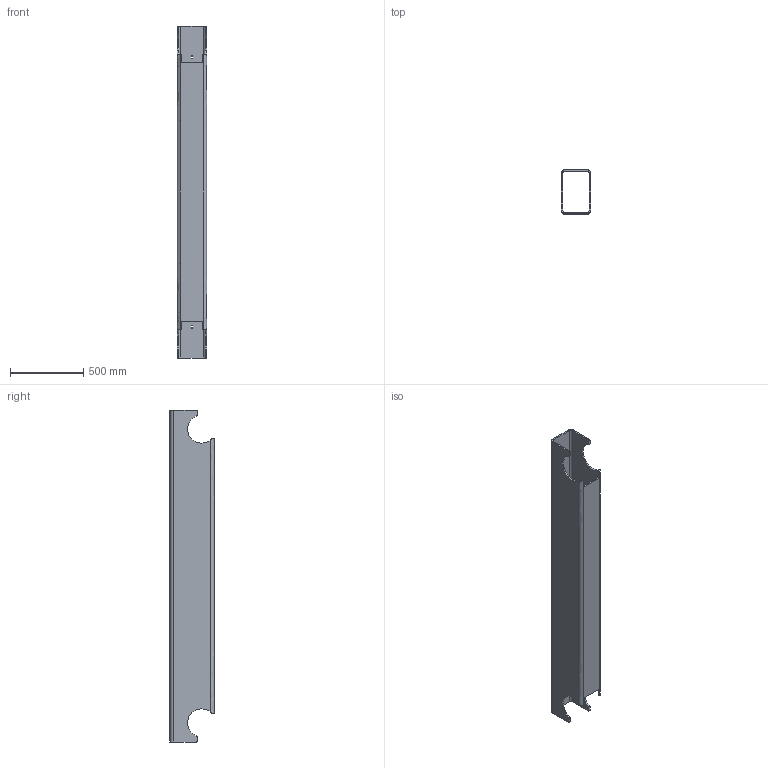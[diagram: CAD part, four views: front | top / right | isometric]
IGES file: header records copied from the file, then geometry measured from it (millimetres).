
Global section: file name: 2 1шт; native system: Autodesk Inventor 2025; preprocessor: unknown; author: Кочнев Д,,11,0,; organization: 20240509.000000; date: 20260427.152023; units: millimetre
Bounding box: 200 x 300 x 2260 mm (x, y, z)
Volume: 18588539.9 mm3; surface area: 3758976.6 mm2
Topology: 1 solids, 1 shells, 70 faces, 212 edges, 142 vertices
Faces by surface type: bspline 70
